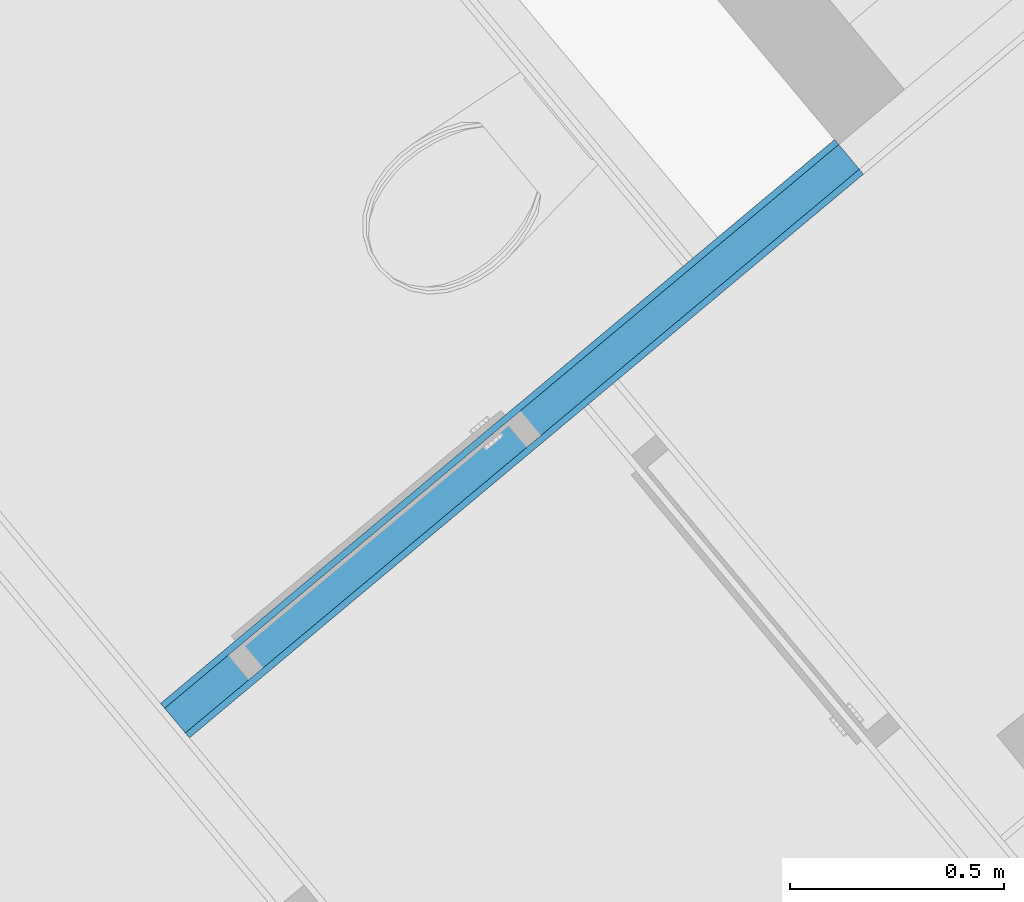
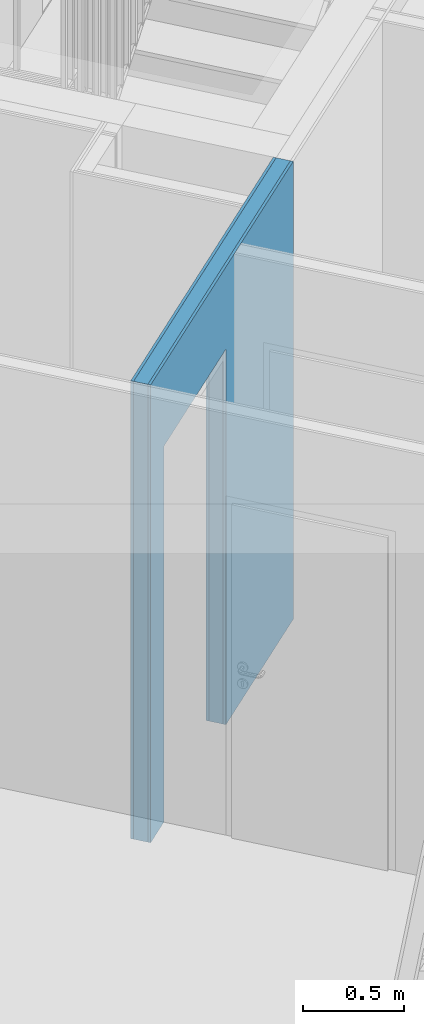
# One storey, part 4 of 58: 3 building element parts, 1 opening, 1 element without a shape of its own.
"""IFC4 building model written with IfcOpenShell, lengths in metres."""

from ifc_helpers import new_model, entity, si_unit, converted_unit, derived_unit, direction, frame, origin_with_axes, place, context, subcontext, project, spatial, polygons, material, type_object, element, aggregate, save


model = new_model("IFC4")

# Units and contexts
model_context = context("Model", 3, precision=1e-05, world=origin_with_axes(), true_north=direction((0.0, 1.0)))
body_context = subcontext(model_context, "Body", "Model", "MODEL_VIEW")
ifc_project = project(units=[si_unit("LENGTHUNIT", "METRE"), si_unit("AREAUNIT", "SQUARE_METRE"), si_unit("VOLUMEUNIT", "CUBIC_METRE"), converted_unit("PLANEANGLEUNIT", "DEGREE", entity("IfcPlaneAngleMeasure", 0.0174532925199), si_unit("PLANEANGLEUNIT", "RADIAN"), dimensions=[0, 0, 0, 0, 0, 0, 0]), converted_unit("TIMEUNIT", "Year", entity("IfcTimeMeasure", 31556926.0), si_unit("TIMEUNIT", "SECOND"), dimensions=[0, 0, 1, 0, 0, 0, 0]), si_unit("MASSUNIT", "GRAM", prefix="KILO"), si_unit("THERMODYNAMICTEMPERATUREUNIT", "DEGREE_CELSIUS"), si_unit("LUMINOUSINTENSITYUNIT", "LUMEN"), si_unit("ENERGYUNIT", "JOULE", prefix="MEGA"), derived_unit("THERMALCONDUCTANCEUNIT", [(si_unit("POWERUNIT", "WATT"), 1), (si_unit("LENGTHUNIT", "METRE"), -1), (si_unit("THERMODYNAMICTEMPERATUREUNIT", "KELVIN"), -1)]), derived_unit("SPECIFICHEATCAPACITYUNIT", [(si_unit("ENERGYUNIT", "JOULE"), 1), (si_unit("MASSUNIT", "GRAM", prefix="KILO"), -1), (si_unit("THERMODYNAMICTEMPERATUREUNIT", "KELVIN"), -1)]), derived_unit("MASSDENSITYUNIT", [(si_unit("MASSUNIT", "GRAM", prefix="KILO"), 1), (si_unit("VOLUMEUNIT", "CUBIC_METRE"), -1)])], contexts=[model_context])

# Site, building, storey
site_placement = place(None, frame((-0.00153261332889, -0.00661245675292, 0.0), z_axis=(0.0, 0.0, 1.0), x_axis=(1.0, 0.0, 0.0)))
site = spatial("IfcSite", under=ifc_project, at=site_placement, Name="Site", CompositionType="ELEMENT")
building_placement = place(site_placement, origin_with_axes())
building = spatial("IfcBuilding", under=site, at=building_placement, Name="Building", CompositionType="ELEMENT")
storey_placement = place(building_placement, frame((0.0, 0.0, 5.7), z_axis=(0.0, 0.0, 1.0), x_axis=(1.0, 0.0, 0.0)))
storey = spatial("IfcBuildingStorey", under=building, at=storey_placement, Name="DG1", CompositionType="ELEMENT", Elevation=5.7)

# Wall, opening, building element parts
wall_type = type_object("IfcWallType", Name="IW LB 01 Leichtbautrennwand einfach 10,5 cm 105", PredefinedType="NOTDEFINED")
wall_placement = place(storey_placement, frame((-3.8779013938, 18.9137265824, 0.0), z_axis=(0.0, 0.0, 1.0), x_axis=(0.767062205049, 0.641572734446, 0.0)))
wall = element("IfcWall", 1, at=wall_placement, inside=storey, type_object=wall_type, Name="Wand-012", PredefinedType="NOTDEFINED")
opening_placement = place(wall_placement, frame((0.742573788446, 0.0, 0.22), z_axis=(0.0, 0.0, 1.0), x_axis=(1.0, 0.0, 0.0)))
element("IfcOpeningElement", 2, at=opening_placement, cuts=wall, Name="Tür-016", context=body_context, identifier="Reference", shape_type="Tessellation", body=[
    polygons([(-0.445, -1.16650854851, 2.045), (-0.445, -1.16650854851, -0.22), (0.445, -1.16650854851, -0.22), (0.445, -1.16650854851, 2.045), (-0.445, 1.06150854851, 2.045), (-0.445, 1.06150854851, -0.22), (0.445, 1.06150854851, -0.22), (0.445, 1.06150854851, 2.045)], [[[1, 2, 3, 4]], [[5, 6, 2, 1]], [[6, 7, 3, 2]], [[7, 8, 4, 3]], [[8, 5, 1, 4]], [[7, 6, 5, 8]]], closed=True),
])
ifc_material_1 = material(Name="Gipskarton")
building_element_part_1_placement = place(wall_placement, origin_with_axes())
building_element_part_1 = element("IfcBuildingElementPart", 3, at=building_element_part_1_placement, material=ifc_material_1, Name="Gipskarton", PredefinedType="NOTDEFINED", context=body_context, shape_type="Tessellation", body=[
    polygons([(0.297573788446, -0.015, 0.22), (0.297573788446, -0.015, 2.265), (1.18757378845, -0.015, 2.265), (1.18757378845, -0.015, 0.22), (1.18757378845, -0.015, 0.0), (2.15495244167, -0.015, 0.0), (2.15495244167, -0.015, 2.76), (0.104992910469, -0.015, 2.76), (0.104992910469, -0.015, 0.0), (0.297573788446, -0.015, 0.0), (0.297573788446, 3.45460549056e-09, 0.22), (0.297573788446, -8.58950244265e-10, 2.265), (1.18757378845, -8.58950244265e-10, 2.265), (1.18757378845, -8.58950244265e-10, 0.22), (1.18757378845, -8.58950244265e-10, 0.0), (2.15495244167, 0.0, 0.0), (2.15495244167, 0.0, 2.76), (0.105000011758, 0.0, 2.76), (0.105000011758, 0.0, 0.0), (0.297573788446, 3.45460549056e-09, 0.0)], [[[1, 2, 3, 4, 5, 6, 7, 8, 9, 10]], [[2, 1, 11, 12]], [[3, 2, 12, 13]], [[4, 3, 13, 14]], [[4, 14, 15, 5]], [[15, 16, 6, 5]], [[7, 6, 16, 17]], [[7, 17, 18, 8]], [[8, 18, 19, 9]], [[10, 9, 19, 20]], [[11, 1, 10, 20]], [[12, 11, 20, 19, 18, 17, 16, 15, 14, 13]]], closed=True),
])
ifc_material_2 = material(Name="Mineralwolle weich")
building_element_part_2_placement = place(wall_placement, origin_with_axes())
building_element_part_2 = element("IfcBuildingElementPart", 4, at=building_element_part_2_placement, material=ifc_material_2, Name="Mineralwolle weich", PredefinedType="NOTDEFINED", context=body_context, shape_type="Tessellation", body=[
    polygons([(0.297573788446, -0.09, 0.22), (0.297573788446, -0.09, 2.265), (1.18757378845, -0.09, 2.265), (1.18757378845, -0.09, 0.22), (1.18757378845, -0.09, 0.0), (2.15495244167, -0.09, 0.0), (2.15495244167, -0.09, 2.76), (0.104957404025, -0.09, 2.76), (0.104957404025, -0.09, 0.0), (0.297573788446, -0.09, 0.0), (0.297573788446, -0.015, 0.22), (0.297573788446, -0.015, 2.265), (1.18757378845, -0.015, 2.265), (1.18757378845, -0.015, 0.22), (1.18757378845, -0.015, 0.0), (2.15495244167, -0.015, 0.0), (2.15495244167, -0.015, 2.76), (0.104992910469, -0.015, 2.76), (0.104992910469, -0.015, 0.0), (0.297573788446, -0.015, 0.0)], [[[1, 2, 3, 4, 5, 6, 7, 8, 9, 10]], [[2, 1, 11, 12]], [[3, 2, 12, 13]], [[4, 3, 13, 14]], [[4, 14, 15, 5]], [[15, 16, 6, 5]], [[7, 6, 16, 17]], [[7, 17, 18, 8]], [[8, 18, 19, 9]], [[10, 9, 19, 20]], [[11, 1, 10, 20]], [[12, 11, 20, 19, 18, 17, 16, 15, 14, 13]]], closed=True),
])
building_element_part_3_placement = place(wall_placement, origin_with_axes())
building_element_part_3 = element("IfcBuildingElementPart", 5, at=building_element_part_3_placement, material=ifc_material_1, Name="Gipskarton", PredefinedType="NOTDEFINED", context=body_context, shape_type="Tessellation", body=[
    polygons([(0.297573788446, -0.105, 0.22), (0.297573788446, -0.105, 2.265), (1.18757378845, -0.105, 2.265), (1.18757378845, -0.105, 0.22), (1.18757378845, -0.105, 0.0), (2.15495244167, -0.105, 0.0), (2.15495244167, -0.105, 2.76), (0.104950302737, -0.105, 2.76), (0.104950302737, -0.105, 0.0), (0.297573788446, -0.105, 0.0), (0.297573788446, -0.09, 0.22), (0.297573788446, -0.09, 2.265), (1.18757378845, -0.09, 2.265), (1.18757378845, -0.09, 0.22), (1.18757378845, -0.09, 0.0), (2.15495244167, -0.09, 0.0), (2.15495244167, -0.09, 2.76), (0.104957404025, -0.09, 2.76), (0.104957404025, -0.09, 0.0), (0.297573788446, -0.09, 0.0)], [[[1, 2, 3, 4, 5, 6, 7, 8, 9, 10]], [[2, 1, 11, 12]], [[3, 2, 12, 13]], [[4, 3, 13, 14]], [[4, 14, 15, 5]], [[15, 16, 6, 5]], [[7, 6, 16, 17]], [[7, 17, 18, 8]], [[8, 18, 19, 9]], [[10, 9, 19, 20]], [[11, 1, 10, 20]], [[12, 11, 20, 19, 18, 17, 16, 15, 14, 13]]], closed=True),
])
aggregate(wall, [building_element_part_1, building_element_part_2, building_element_part_3])

save(model, "model.ifc")
